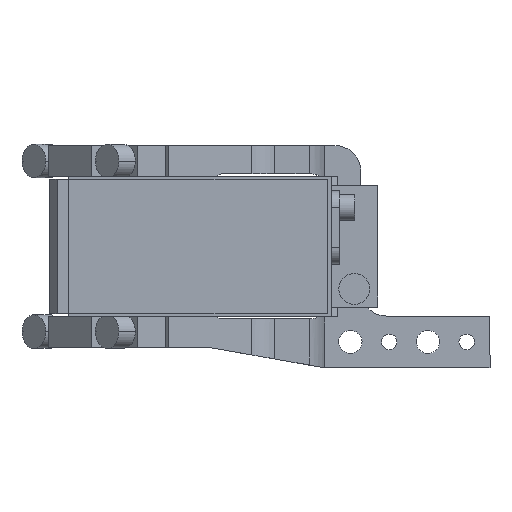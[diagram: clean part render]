
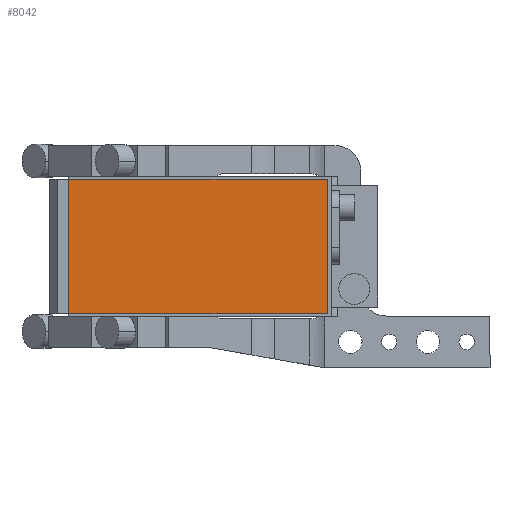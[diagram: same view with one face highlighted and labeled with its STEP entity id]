
A CAD part, front view. The second image highlights one B-rep face of the part: STEP entity #8042.
In plain terms, the highlighted planar face has unit normal (0, -1, 0).
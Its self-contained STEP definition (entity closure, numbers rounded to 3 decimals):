
#410 = LINE ( 'NONE', #12160, #2335 ) ;
#732 = CARTESIAN_POINT ( 'NONE',  ( 81., -286.5, 26. ) ) ;
#898 = VECTOR ( 'NONE', #6758, 1000. ) ;
#1126 = CARTESIAN_POINT ( 'NONE',  ( 81., -286.5, 26. ) ) ;
#1384 = LINE ( 'NONE', #2445, #898 ) ;
#1415 = ORIENTED_EDGE ( 'NONE', *, *, #6141, .T. ) ;
#1524 = FACE_OUTER_BOUND ( 'NONE', #4330, .T. ) ;
#1745 = ORIENTED_EDGE ( 'NONE', *, *, #3427, .T. ) ;
#1809 = CARTESIAN_POINT ( 'NONE',  ( 0., -286.5, 0. ) ) ;
#2335 = VECTOR ( 'NONE', #6936, 1000. ) ;
#2445 = CARTESIAN_POINT ( 'NONE',  ( -19., -286.5, 26. ) ) ;
#2498 = CARTESIAN_POINT ( 'NONE',  ( -19., -286.5, -26. ) ) ;
#3427 = EDGE_CURVE ( 'NONE', #9787, #7475, #1384, .T. ) ;
#3804 = EDGE_CURVE ( 'NONE', #5558, #13808, #9841, .T. ) ;
#4196 = ORIENTED_EDGE ( 'NONE', *, *, #7172, .T. ) ;
#4203 = VECTOR ( 'NONE', #6736, 1000. ) ;
#4330 = EDGE_LOOP ( 'NONE', ( #4196, #6082, #1415, #1745 ) ) ;
#5558 = VERTEX_POINT ( 'NONE', #6676 ) ;
#5911 = DIRECTION ( 'NONE',  ( 0., 0., -1. ) ) ;
#5983 = DIRECTION ( 'NONE',  ( 0., -1., 0. ) ) ;
#6082 = ORIENTED_EDGE ( 'NONE', *, *, #3804, .T. ) ;
#6141 = EDGE_CURVE ( 'NONE', #13808, #9787, #13985, .T. ) ;
#6437 = AXIS2_PLACEMENT_3D ( 'NONE', #1809, #5983, #5911 ) ;
#6648 = VECTOR ( 'NONE', #11744, 1000. ) ;
#6676 = CARTESIAN_POINT ( 'NONE',  ( -19., -286.5, -26. ) ) ;
#6736 = DIRECTION ( 'NONE',  ( 1., 0., 0. ) ) ;
#6758 = DIRECTION ( 'NONE',  ( -1., 0., 0. ) ) ;
#6936 = DIRECTION ( 'NONE',  ( 0., 0., -1. ) ) ;
#7172 = EDGE_CURVE ( 'NONE', #7475, #5558, #410, .T. ) ;
#7475 = VERTEX_POINT ( 'NONE', #10885 ) ;
#8042 = ADVANCED_FACE ( 'NONE', ( #1524 ), #10430, .T. ) ;
#9787 = VERTEX_POINT ( 'NONE', #732 ) ;
#9841 = LINE ( 'NONE', #2498, #4203 ) ;
#10430 = PLANE ( 'NONE',  #6437 ) ;
#10885 = CARTESIAN_POINT ( 'NONE',  ( -19., -286.5, 26. ) ) ;
#11744 = DIRECTION ( 'NONE',  ( 0., 0., 1. ) ) ;
#12080 = CARTESIAN_POINT ( 'NONE',  ( 81., -286.5, -26. ) ) ;
#12160 = CARTESIAN_POINT ( 'NONE',  ( -19., -286.5, 26. ) ) ;
#13808 = VERTEX_POINT ( 'NONE', #12080 ) ;
#13985 = LINE ( 'NONE', #1126, #6648 ) ;
